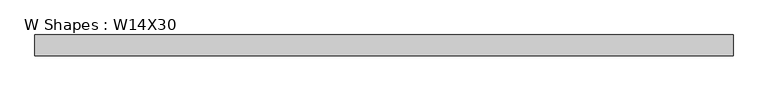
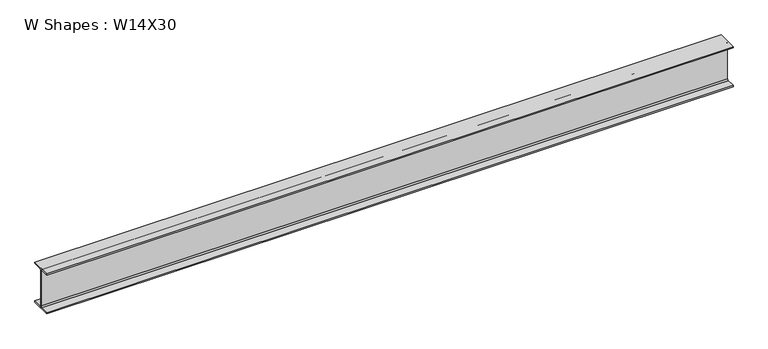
"""IFC4 building model written with IfcOpenShell, lengths in millimetres: beam geometry, W Shapes : W14X30."""

from ifc_helpers import new_model, si_unit, point, frame, frame_2d, origin, place, context, project, spatial, polyline, circle_curve, trimmed, segment, composite_curve, outline, extrude, source, transform, mapped, element, save


def w_shapes_w14x30_d98494cf(model_context):
    return source(origin(), model_context, "Body", "SweptSolid", [
        extrude(outline(composite_curve([segment(polyline([(85.471, -165.481), (85.471, -175.26), (-85.471, -175.26), (-85.471, -165.481), (-13.589, -165.481)]), True, "CONTINUOUS"), segment(trimmed(circle_curve(frame_2d((-13.589, -155.321)), 10.16), [point((-13.589, -165.481))], [point((-3.429, -155.321))], True, "CARTESIAN"), True, "CONTINUOUS"), segment(polyline([(-3.429, -155.321), (-3.429, 155.321)]), True, "CONTINUOUS"), segment(trimmed(circle_curve(frame_2d((-13.589, 155.321)), 10.16), [point((-3.429, 155.321))], [point((-13.589, 165.481))], True, "CARTESIAN"), True, "CONTINUOUS"), segment(polyline([(-13.589, 165.481), (-85.471, 165.481), (-85.471, 175.26), (85.471, 175.26), (85.471, 165.481), (13.589, 165.481)]), True, "CONTINUOUS"), segment(trimmed(circle_curve(frame_2d((13.589, 155.321)), 10.16), [point((13.589, 165.481))], [point((3.429, 155.321))], True, "CARTESIAN"), True, "CONTINUOUS"), segment(polyline([(3.429, 155.321), (3.429, -155.321)]), True, "CONTINUOUS"), segment(trimmed(circle_curve(frame_2d((13.589, -155.321)), 10.16), [point((3.429, -155.321))], [point((13.589, -165.481))], True, "CARTESIAN"), True, "CONTINUOUS"), segment(polyline([(13.589, -165.481), (85.471, -165.481)]), True, "CONTINUOUS")], self_intersect=False)), frame((-2838.45, 0.0, 0.0), z_axis=(1.0, 0.0, 0.0), x_axis=(0.0, 1.0, 0.0)), (0.0, 0.0, 1.0), 5705.729),
    ])


if __name__ == "__main__":
    model = new_model("IFC4")
    model_context = context("Model", 3, world=origin())
    ifc_project = project(units=[si_unit("LENGTHUNIT", "METRE", prefix="MILLI")], contexts=[model_context])
    site = spatial("IfcSite", under=ifc_project)
    building = spatial("IfcBuilding", under=site)
    placement = place(None, origin())
    w_shapes_w14x30_shape = w_shapes_w14x30_d98494cf(model_context)
    element("IfcBeam", 1, ObjectType="W Shapes : W14X30", at=placement, inside=building, context=model_context, shape_type="MappedRepresentation", body=[
        mapped(w_shapes_w14x30_shape, transform((0.0, 0.0, 0.0), x_axis=(1.0, 0.0, 0.0), y_axis=(0.0, 1.0, 0.0), z_axis=(0.0, 0.0, 1.0))),
    ])
    save(model, "model.ifc")
